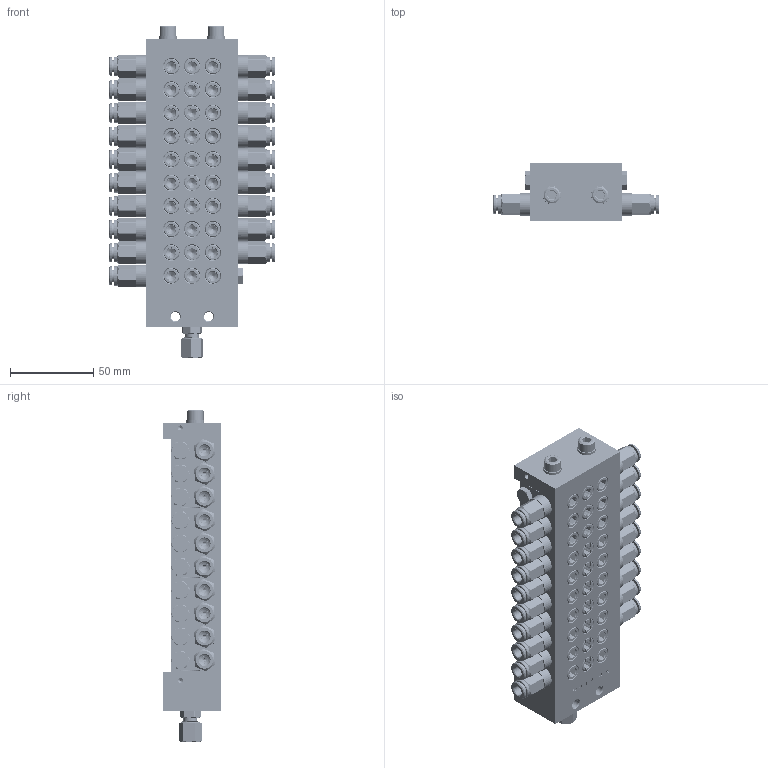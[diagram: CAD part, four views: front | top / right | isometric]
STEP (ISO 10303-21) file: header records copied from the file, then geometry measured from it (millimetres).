
FILE_DESCRIPTION (( 'STEP AP214' ), '1' );
FILE_NAME ('STW_XV_0143_19_0502_19_Auslässe.STEP', '2026-02-04T10:23:05', ( '' ), ( '' ), 'SwSTEP 2.0', 'SolidWorks 2022', '' );
FILE_SCHEMA (( 'AUTOMOTIVE_DESIGN' ));
Length unit declared in the file: millimetre
Products named in the file (19): STW_XV_END; H200139_HDS01_6_M10X1_08.05.17; 991214010601_Koerper; 991214010601; M6X65_DIN_912; DR6-C_HDX_25.07.16_1; STW_XV_Kolbenanschlag; RIVOLUZIONE_0_2; U_Scheibe_6; Verschlussstopfen_1_8_2; 991214010601_Mutter; STW_XV_0143_19_0502_19_Auslässe; STW_XV_MITTEL_1; STW_XV_ENGANG; 991214010601_Schneidring; Verschlussstopfen_1_8; OR 7.66X1.78_1; STW_XV_Verbindungsstopen; XV_Mittelelement
Assembly tree (64 placements, depth 3):
  STW_XV_0143_19_0502_19_Auslässe
    STW_XV_ENGANG
    STW_XV_MITTEL_1  x3
    STW_XV_END
    Verschlussstopfen_1_8_2  x6
    STW_XV_Kolbenanschlag  x6
    STW_XV_Verbindungsstopen  x3
    M6X65_DIN_912  x2
    U_Scheibe_6  x2
    991214010601
      991214010601_Koerper
      991214010601_Schneidring
      991214010601_Mutter
    XV_Mittelelement  x7
      STW_XV_MITTEL_1
      STW_XV_Kolbenanschlag
      Verschlussstopfen_1_8_2
      STW_XV_Verbindungsstopen
    H200139_HDS01_6_M10X1_08.05.17  x19
      OR 7.66X1.78_1
      DR6-C_HDX_25.07.16_1
      RIVOLUZIONE_0_2
    Verschlussstopfen_1_8
Bounding box: 99.6 x 35 x 199.68 mm (x, y, z)
Volume: 310629.1 mm3; surface area: 192313.5 mm2
Topology: 127 solids, 127 shells, 4160 faces, 10780 edges, 6934 vertices
Faces by surface type: plane 2042, cylinder 1030, cone 833, bspline 235, torus 20
Full cylindrical faces by diameter (mm): 2 x257, 3 x17, 4.2 x19, 4.5 x1, 5 x101, 5.5 x2, 5.9 x2, 6 x3, 6.2 x42, 6.3 x19, 6.4 x2, 6.5 x20, 7 x20, 7.2 x19, 7.4 x1, 7.67 x1, 8 x21, 8.3 x1, 8.4 x10, 8.5 x19, 8.6 x50, 9 x22, 9.7 x21, 9.73 x10, 9.8 x7, 9.9 x19, 10 x60, 10.3 x19, 11 x2, 11.5 x19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
Entity records: 45712 total; most frequent: CARTESIAN_POINT 22456, ORIENTED_EDGE 3064, DIRECTION 2731, EDGE_CURVE 1532, VERTEX_POINT 1095, EDGE_LOOP 1035, AXIS2_PLACEMENT_3D 983, FACE_OUTER_BOUND 832
